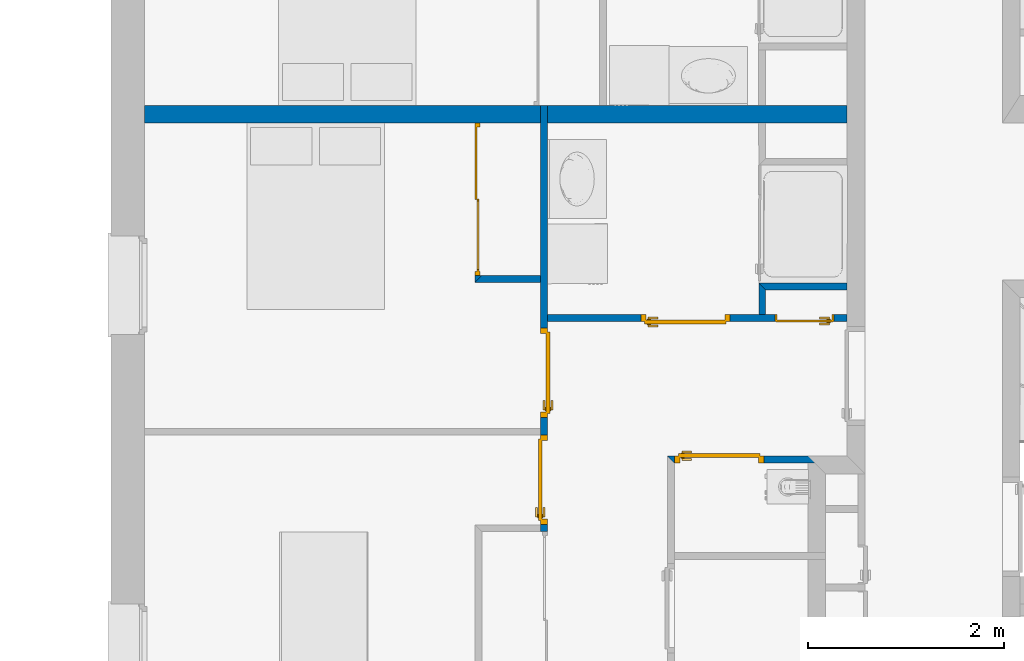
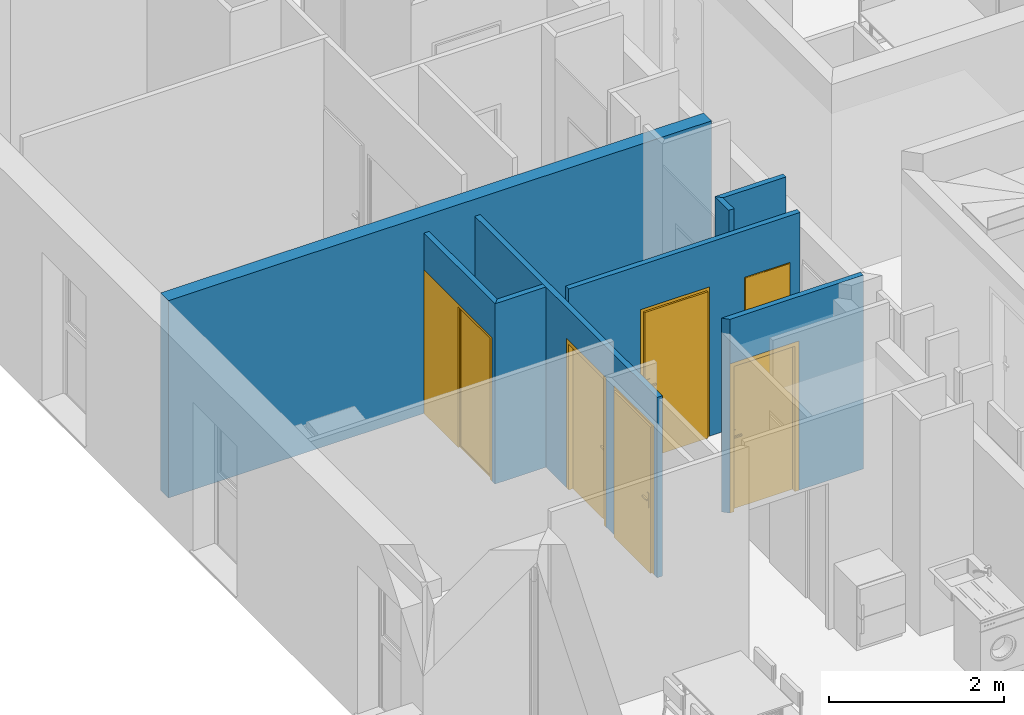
# One storey, part 28 of 164: 8 walls, 6 doors, 6 openings.
"""IFC2X3 building model written with IfcOpenShell, lengths in millimetres."""

from ifc_helpers import new_model, entity, si_unit, converted_unit, derived_unit, money_unit, direction, frame, origin_with_axes, origin_2d_with_axis, place, context, subcontext, project, spatial, polyline, rectangle, outline, extrude, open_shell, faceted_brep, surface_model, source, transform, mapped, material, layer, layer_set, layer_usage, type_object, element, fill, save


model = new_model("IFC2X3")

# Units and contexts
model_context = context("Model", 3, precision=0.01, world=origin_with_axes(), true_north=direction((0.0, 1.0)))
body_context = subcontext(model_context, "Body", "Model", "MODEL_VIEW")
ifc_project = project(units=[si_unit("LENGTHUNIT", "METRE", prefix="MILLI"), si_unit("AREAUNIT", "SQUARE_METRE"), si_unit("VOLUMEUNIT", "CUBIC_METRE"), converted_unit("PLANEANGLEUNIT", "DEGREE", entity("IfcPlaneAngleMeasure", 0.0174532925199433), si_unit("PLANEANGLEUNIT", "RADIAN"), dimensions=[0, 0, 0, 0, 0, 0, 0]), money_unit("USD"), converted_unit("TIMEUNIT", "Year", entity("IfcTimeMeasure", 31557600.0), si_unit("TIMEUNIT", "SECOND"), dimensions=[0, 0, 1, 0, 0, 0, 0]), si_unit("MASSUNIT", "GRAM", prefix="KILO"), si_unit("THERMODYNAMICTEMPERATUREUNIT", "DEGREE_CELSIUS"), si_unit("LUMINOUSINTENSITYUNIT", "LUMEN"), si_unit("ENERGYUNIT", "JOULE", prefix="MEGA"), derived_unit("THERMALCONDUCTANCEUNIT", [(si_unit("POWERUNIT", "WATT"), 1), (si_unit("LENGTHUNIT", "METRE"), -1), (si_unit("THERMODYNAMICTEMPERATUREUNIT", "KELVIN"), -1)]), derived_unit("SPECIFICHEATCAPACITYUNIT", [(si_unit("ENERGYUNIT", "JOULE"), 1), (si_unit("MASSUNIT", "GRAM", prefix="KILO"), -1), (si_unit("THERMODYNAMICTEMPERATUREUNIT", "KELVIN"), -1)]), derived_unit("MASSDENSITYUNIT", [(si_unit("MASSUNIT", "GRAM", prefix="KILO"), 1), (si_unit("VOLUMEUNIT", "CUBIC_METRE"), -1)])], contexts=[model_context])

# Site, building, storey
site_placement = place(None, origin_with_axes())
site = spatial("IfcSite", under=ifc_project, at=site_placement, Name="Site", CompositionType="ELEMENT")
building_placement = place(site_placement, origin_with_axes())
building = spatial("IfcBuilding", under=site, at=building_placement, Name="Bâtiment", CompositionType="ELEMENT")
storey_placement = place(building_placement, frame((0.0, 0.0, 5750.0), z_axis=(0.0, 0.0, 1.0), x_axis=(1.0, 0.0, 0.0)))
storey = spatial("IfcBuildingStorey", under=building, at=storey_placement, Name="Etage1", CompositionType="ELEMENT", Elevation=5750.0)

# Walls
ifc_material_1 = material(Name="Parpaing 314940890")
ifc_layer_1 = layer(ifc_material_1, 180.0, ventilated="UNKNOWN")
ifc_layer_set_1 = layer_set([ifc_layer_1], Name="Beton  18 0018356637")
ifc_layer_usage_1 = layer_usage(ifc_layer_set_1, "AXIS2", "POSITIVE", 0.0)
wall_type_1 = type_object("IfcWallType", Name="Beton  18 0018356637 180", PredefinedType="NOTDEFINED")
wall_1_placement = place(storey_placement, frame((2216634.274373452, -632613.5146792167, 0.0), z_axis=(0.0, 0.0, 1.0), x_axis=(1.0, 0.0, 0.0)))
element("IfcWallStandardCase", 1, at=wall_1_placement, inside=storey, type_object=wall_type_1, material=ifc_layer_usage_1, Name="Mur-142", context=body_context, shape_type="SweptSolid", body=[
    extrude(outline(polyline([(340.0001778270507, 0.0), (7498.105825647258, 0.0), (7498.104824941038, 180.0000000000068), (339.9991173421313, 180.0000000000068), (340.0001778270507, 0.0)])), origin_with_axes(), (0.0, 0.0, 1.0), 2750.0),
])
ifc_material_2 = material(Name="Hachure solide 268963992")
ifc_layer_2 = layer(ifc_material_2, 70.0, ventilated="UNKNOWN")
ifc_layer_set_2 = layer_set([ifc_layer_2], Name="Cloison 70 0826278243")
ifc_layer_usage_2 = layer_usage(ifc_layer_set_2, "AXIS2", "NEGATIVE", 70.0)
wall_type_2 = type_object("IfcWallType", Name="Cloison 70 0826278243 70", PredefinedType="NOTDEFINED")
wall_2_placement = place(storey_placement, frame((2224312.389264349, -634244.107517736, 0.0), z_axis=(0.0, 0.0, 1.0), x_axis=(-0.9999998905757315, 0.0004678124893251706, 0.0)))
element("IfcWallStandardCase", 2, at=wall_2_placement, inside=storey, type_object=wall_type_2, material=ifc_layer_usage_2, Name="Mur-149", context=body_context, shape_type="SweptSolid", body=[
    extrude(outline(polyline([(180.0000201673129, 0.0), (1079.999976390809, 0.0), (1009.967238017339, 69.99999999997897), (179.9668841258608, 69.99999999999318), (180.0000201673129, 0.0)])), origin_with_axes(), (0.0, 0.0, 1.0), 3000.0),
])

# Wall, openings, doors
ifc_layer_usage_3 = layer_usage(ifc_layer_set_2, "AXIS2", "NEGATIVE", 70.0)
wall_3_placement = place(storey_placement, frame((2221010.881430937, -634634.1074761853, 0.0), z_axis=(0.0, 0.0, 1.0), x_axis=(1.0, 0.0, 0.0)))
wall_3 = element("IfcWallStandardCase", 3, at=wall_3_placement, inside=storey, type_object=wall_type_2, material=ifc_layer_usage_3, Name="Mur-150", context=body_context, shape_type="SweptSolid", body=[
    extrude(outline(polyline([(69.99988568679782, 0.0), (3121.510001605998, 0.0), (3121.509612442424, 69.99999999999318), (69.99990367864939, 69.99999999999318), (69.99988568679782, 0.0)])), origin_with_axes(), (0.0, 0.0, 1.0), 2700.0),
])
opening_1_placement = place(wall_3_placement, frame((1474.347700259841, 0.0, 0.0), z_axis=(0.0, 0.0, 1.0), x_axis=(1.0, 0.0, 0.0)))
opening_1 = element("IfcOpeningElement", 4, at=opening_1_placement, cuts=wall_3, Name="Por-277", context=body_context, shape_type="SweptSolid", body=[
    extrude(rectangle(XDim=910.0, YDim=2080.0, at=origin_2d_with_axis()), frame((0.0, 69.99999999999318, 1040.0), z_axis=(0.0, 1.0, 0.0), x_axis=(1.0, 0.0, 0.0)), (0.0, 0.0, -1.0), 140.0),
])
opening_2_placement = place(wall_3_placement, frame((2686.279846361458, 0.0, 0.0), z_axis=(0.0, 0.0, 1.0), x_axis=(1.0, 0.0, 0.0)))
opening_2 = element("IfcOpeningElement", 5, at=opening_2_placement, cuts=wall_3, Name="Por-275", context=body_context, shape_type="SweptSolid", body=[
    extrude(rectangle(XDim=599.9999999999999, YDim=2050.0, at=origin_2d_with_axis()), frame((0.0, 69.99999999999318, 1025.0), z_axis=(0.0, -1.0, 0.0), x_axis=(-1.0, 0.0, 0.0)), (0.0, 0.0, 1.0), 140.0),
])
door_style_1 = type_object("IfcDoorStyle", Name="Porte_1v", ConstructionType="NOTDEFINED", OperationType="NOTDEFINED", ParameterTakesPrecedence=False, Sizeable=False)
shared_shape_1 = source(origin_with_axes(), body_context, "Body", "Brep", [
    faceted_brep([(300.0, 0.0, 0.0), (290.0, 0.0, 0.0), (290.0, 0.0, 2040.0), (-290.0, 0.0, 2040.0), (-290.0, 0.0, 0.0), (-300.0, 0.0, 0.0), (-300.0, 0.0, 2050.0), (300.0, 0.0, 2050.0), (300.0, -70.0, 0.0), (279.9999999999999, -70.0, 0.0), (279.9999999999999, -15.0, 0.0), (290.0, -15.0, 0.0), (290.0, -15.0, 2040.0), (-290.0, -15.0, 2040.0), (-290.0, -15.0, 0.0), (-279.9999999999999, -15.0, 0.0), (-279.9999999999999, -70.0, 0.0), (-300.0, -70.0, 0.0), (-300.0, -70.0, 2050.0), (300.0, -70.0, 2050.0), (-279.9999999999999, -70.0, 2030.0), (279.9999999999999, -70.0, 2030.0), (279.9999999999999, -15.0, 2030.0), (-279.9999999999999, -15.0, 2030.0)], [[[0, 1, 2, 3, 4, 5, 6, 7]], [[0, 8, 9, 10, 11, 1]], [[1, 11, 12, 2]], [[2, 12, 13, 3]], [[3, 13, 14, 4]], [[5, 4, 14, 15, 16, 17]], [[18, 6, 5, 17]], [[19, 7, 6, 18]], [[8, 0, 7, 19]], [[9, 8, 19, 18, 17, 16, 20, 21]], [[10, 9, 21, 22]], [[11, 10, 22, 23, 15, 14, 13, 12]], [[23, 20, 16, 15]], [[22, 21, 20, 23]]]),
    faceted_brep([(-224.9999999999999, -15.0, 900.0), (-264.9999999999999, -15.0, 900.0), (-264.9999999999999, -15.0, 1100.0), (-224.9999999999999, -15.0, 1100.0), (-224.9999999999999, -25.0, 900.0), (-264.9999999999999, -25.0, 900.0), (-264.9999999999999, -25.0, 1100.0), (-224.9999999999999, -25.0, 1100.0)], [[[0, 1, 2, 3]], [[1, 0, 4, 5]], [[2, 1, 5, 6]], [[3, 2, 6, 7]], [[0, 3, 7, 4]], [[5, 4, 7, 6]]]),
    faceted_brep([(-154.9999999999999, -25.0, 1000.0), (-254.9999999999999, -25.0, 1000.0), (-254.9999999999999, -25.0, 1020.0), (-154.9999999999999, -25.0, 1020.0), (-154.9999999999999, -45.0, 1000.0), (-254.9999999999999, -45.0, 1000.0), (-254.9999999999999, -45.0, 1020.0), (-154.9999999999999, -45.0, 1020.0)], [[[0, 1, 2, 3]], [[1, 0, 4, 5]], [[2, 1, 5, 6]], [[3, 2, 6, 7]], [[0, 3, 7, 4]], [[5, 4, 7, 6]]]),
    faceted_brep([(-224.9999999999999, 15.0, 900.0), (-264.9999999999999, 15.0, 900.0), (-264.9999999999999, 15.0, 1100.0), (-224.9999999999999, 15.0, 1100.0), (-224.9999999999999, 5.000000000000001, 900.0), (-264.9999999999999, 5.000000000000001, 900.0), (-264.9999999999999, 5.000000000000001, 1100.0), (-224.9999999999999, 5.000000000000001, 1100.0)], [[[0, 1, 2, 3]], [[1, 0, 4, 5]], [[2, 1, 5, 6]], [[3, 2, 6, 7]], [[0, 3, 7, 4]], [[5, 4, 7, 6]]]),
    faceted_brep([(-154.9999999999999, 35.0, 1000.0), (-254.9999999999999, 35.0, 1000.0), (-254.9999999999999, 35.0, 1020.0), (-154.9999999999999, 35.0, 1020.0), (-154.9999999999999, 15.0, 1000.0), (-254.9999999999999, 15.0, 1000.0), (-254.9999999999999, 15.0, 1020.0), (-154.9999999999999, 15.0, 1020.0)], [[[0, 1, 2, 3]], [[1, 0, 4, 5]], [[2, 1, 5, 6]], [[3, 2, 6, 7]], [[0, 3, 7, 4]], [[5, 4, 7, 6]]]),
    faceted_brep([(-290.0, 5.000000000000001, 0.0), (290.0, 5.000000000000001, 0.0), (290.0, -15.0, 0.0), (-290.0, -15.0, 0.0), (-290.0, 5.000000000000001, 2040.0), (290.0, 5.000000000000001, 2040.0), (290.0, -15.0, 2040.0), (-290.0, -15.0, 2040.0)], [[[0, 1, 2, 3]], [[0, 4, 5, 1]], [[1, 5, 6, 2]], [[3, 2, 6, 7]], [[4, 0, 3, 7]], [[5, 4, 7, 6]]]),
])
door_1_placement = place(opening_2_placement, frame((289.9999999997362, 0.0, 0.0), z_axis=(0.0, 0.0, 1.0), x_axis=(-1.0, 0.0, 0.0)))
door_1 = element("IfcDoor", 6, at=door_1_placement, inside=storey, type_object=door_style_1, Name="Por-275", OverallHeight=2040.0, OverallWidth=580.0, context=body_context, shape_type="MappedRepresentation", body=[
    mapped(shared_shape_1, transform((289.9999999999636, 0.0, 0.0))),
])
fill(opening_2, door_1)
shared_shape_2 = source(origin_with_axes(), body_context, "Body", "Brep", [
    faceted_brep([(-454.9999999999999, 0.0, 0.0), (-454.9999999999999, 0.0, 2080.0), (454.9999999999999, 0.0, 2080.0), (454.9999999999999, 0.0, 0.0), (414.9999999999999, 0.0, 0.0), (414.9999999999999, 0.0, 2040.0), (-414.9999999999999, 0.0, 2040.0), (-414.9999999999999, 0.0, 0.0), (-454.9999999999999, -69.99999999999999, 0.0), (-454.9999999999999, -69.99999999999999, 2080.0), (454.9999999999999, -69.99999999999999, 2080.0), (454.9999999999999, -69.99999999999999, 0.0), (399.9999999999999, -69.99999999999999, 0.0), (399.9999999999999, -15.0, 0.0), (414.9999999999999, -15.0, 0.0), (414.9999999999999, -15.0, 2040.0), (-414.9999999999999, -14.99999999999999, 2040.0), (-414.9999999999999, -14.99999999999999, 0.0), (-399.9999999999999, -14.99999999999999, 0.0), (-399.9999999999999, -69.99999999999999, 0.0), (-399.9999999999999, -69.99999999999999, 2025.0), (399.9999999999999, -69.99999999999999, 2025.0), (399.9999999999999, -15.0, 2025.0), (-399.9999999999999, -14.99999999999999, 2025.0)], [[[0, 1, 2, 3, 4, 5, 6, 7]], [[8, 9, 1, 0]], [[9, 10, 2, 1]], [[10, 11, 3, 2]], [[3, 11, 12, 13, 14, 4]], [[5, 4, 14, 15]], [[6, 5, 15, 16]], [[7, 6, 16, 17]], [[0, 7, 17, 18, 19, 8]], [[19, 20, 21, 12, 11, 10, 9, 8]], [[22, 13, 12, 21]], [[17, 16, 15, 14, 13, 22, 23, 18]], [[18, 23, 20, 19]], [[23, 22, 21, 20]]]),
    faceted_brep([(350.0, -15.0, 900.0), (350.0, -15.0, 1100.0), (389.9999999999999, -15.0, 1100.0), (389.9999999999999, -15.0, 900.0), (350.0, -25.0, 900.0), (350.0, -25.0, 1100.0), (389.9999999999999, -25.0, 1100.0), (389.9999999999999, -25.0, 900.0)], [[[0, 1, 2, 3]], [[0, 4, 5, 1]], [[1, 5, 6, 2]], [[2, 6, 7, 3]], [[3, 7, 4, 0]], [[7, 6, 5, 4]]]),
    faceted_brep([(279.9999999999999, -25.0, 1000.0), (279.9999999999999, -25.0, 1020.0), (379.9999999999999, -25.0, 1020.0), (379.9999999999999, -25.0, 1000.0), (279.9999999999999, -45.0, 1000.0), (279.9999999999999, -45.0, 1020.0), (379.9999999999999, -45.0, 1020.0), (379.9999999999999, -45.0, 1000.0)], [[[0, 1, 2, 3]], [[0, 4, 5, 1]], [[1, 5, 6, 2]], [[2, 6, 7, 3]], [[3, 7, 4, 0]], [[7, 6, 5, 4]]]),
    faceted_brep([(350.0, 34.99999999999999, 900.0), (350.0, 34.99999999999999, 1100.0), (389.9999999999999, 34.99999999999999, 1100.0), (389.9999999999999, 34.99999999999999, 900.0), (350.0, 24.99999999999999, 900.0), (350.0, 24.99999999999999, 1100.0), (389.9999999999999, 24.99999999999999, 1100.0), (389.9999999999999, 24.99999999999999, 900.0)], [[[0, 1, 2, 3]], [[0, 4, 5, 1]], [[1, 5, 6, 2]], [[2, 6, 7, 3]], [[3, 7, 4, 0]], [[7, 6, 5, 4]]]),
    faceted_brep([(279.9999999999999, 54.99999999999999, 1000.0), (279.9999999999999, 54.99999999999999, 1020.0), (379.9999999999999, 54.99999999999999, 1020.0), (379.9999999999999, 54.99999999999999, 1000.0), (279.9999999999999, 34.99999999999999, 1000.0), (279.9999999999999, 34.99999999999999, 1020.0), (379.9999999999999, 34.99999999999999, 1020.0), (379.9999999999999, 34.99999999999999, 1000.0)], [[[0, 1, 2, 3]], [[0, 4, 5, 1]], [[1, 5, 6, 2]], [[2, 6, 7, 3]], [[3, 7, 4, 0]], [[7, 6, 5, 4]]]),
    faceted_brep([(414.9999999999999, 24.99999999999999, 0.0), (414.9999999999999, -15.0, 0.0), (-414.9999999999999, -14.99999999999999, 0.0), (-414.9999999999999, 25.0, 0.0), (414.9999999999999, 24.99999999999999, 2040.0), (414.9999999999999, -15.0, 2040.0), (-414.9999999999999, -14.99999999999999, 2040.0), (-414.9999999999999, 25.0, 2040.0)], [[[0, 1, 2, 3]], [[4, 5, 1, 0]], [[1, 5, 6, 2]], [[3, 2, 6, 7]], [[0, 3, 7, 4]], [[7, 6, 5, 4]]]),
])
door_2_placement = place(opening_1_placement, frame((414.9999999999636, 0.0, 0.0), z_axis=(0.0, 0.0, 1.0), x_axis=(-1.0, 0.0, 0.0)))
door_2 = element("IfcDoor", 7, at=door_2_placement, inside=storey, type_object=door_style_1, Name="Por-277", OverallHeight=2040.0, OverallWidth=830.0, context=body_context, shape_type="MappedRepresentation", body=[
    mapped(shared_shape_2, transform((414.9999999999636, 0.0, 0.0))),
])
fill(opening_1, door_2)

# Wall, opening, door
ifc_layer_usage_4 = layer_usage(ifc_layer_set_2, "AXIS2", "NEGATIVE", 70.0)
wall_4_placement = place(storey_placement, frame((2224312.39906677, -636007.2981221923, 0.0), z_axis=(0.0, 0.0, 1.0), x_axis=(-0.9999999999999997, 2.755947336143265e-08, 0.0)))
wall_4 = element("IfcWallStandardCase", 8, at=wall_4_placement, inside=storey, type_object=wall_type_2, material=ifc_layer_usage_4, Name="Mur-149", context=body_context, shape_type="SweptSolid", body=[
    extrude(outline(polyline([(180.0000000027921, 0.0), (2009.999836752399, 0.0), (1939.999851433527, 69.99999999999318), (179.9996089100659, 69.99999999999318), (180.0000000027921, 0.0)])), origin_with_axes(), (0.0, 0.0, 1.0), 2700.0),
])
opening_3_placement = place(wall_4_placement, frame((1484.999851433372, 0.0, 0.0), z_axis=(0.0, 0.0, 1.0), x_axis=(1.0, 0.0, 0.0)))
opening_3 = element("IfcOpeningElement", 9, at=opening_3_placement, cuts=wall_4, Name="Por-297", context=body_context, shape_type="SweptSolid", body=[
    extrude(rectangle(XDim=910.0, YDim=2080.0, at=origin_2d_with_axis()), frame((-1.929151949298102e-06, 69.99999999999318, 1040.0), z_axis=(2.755947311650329e-08, -0.9999999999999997, 0.0), x_axis=(-0.9999999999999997, -2.755947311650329e-08, 0.0)), (0.0, 0.0, 1.0), 140.0),
])
shared_shape_3 = source(origin_with_axes(), body_context, "Body", "Brep", [
    faceted_brep([(455.0, 0.0, 0.0), (415.0000000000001, 0.0, 0.0), (415.0000000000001, 0.0, 2040.0), (-415.0000000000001, 0.0, 2040.0), (-415.0000000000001, 0.0, 0.0), (-455.0, 0.0, 0.0), (-455.0, 0.0, 2080.0), (455.0, 0.0, 2080.0), (455.0, -70.0, 0.0), (400.0, -70.0, 0.0), (400.0, -15.0, 0.0), (415.0000000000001, -15.0, 0.0), (415.0000000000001, -15.0, 2040.0), (-415.0000000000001, -15.0, 2040.0), (-415.0000000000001, -15.0, 0.0), (-400.0, -15.0, 0.0), (-400.0, -70.0, 0.0), (-455.0, -70.0, 0.0), (-455.0, -70.0, 2080.0), (455.0, -70.0, 2080.0), (-400.0, -70.0, 2025.0), (400.0, -70.0, 2025.0), (400.0, -15.0, 2025.0), (-400.0, -15.0, 2025.0)], [[[0, 1, 2, 3, 4, 5, 6, 7]], [[0, 8, 9, 10, 11, 1]], [[1, 11, 12, 2]], [[2, 12, 13, 3]], [[3, 13, 14, 4]], [[5, 4, 14, 15, 16, 17]], [[18, 6, 5, 17]], [[19, 7, 6, 18]], [[8, 0, 7, 19]], [[9, 8, 19, 18, 17, 16, 20, 21]], [[10, 9, 21, 22]], [[11, 10, 22, 23, 15, 14, 13, 12]], [[23, 20, 16, 15]], [[22, 21, 20, 23]]]),
    faceted_brep([(-350.0000000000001, -15.0, 900.0), (-390.0, -15.0, 900.0), (-390.0, -15.0, 1100.0), (-350.0000000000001, -15.0, 1100.0), (-350.0000000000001, -25.0, 900.0), (-390.0, -25.0, 900.0), (-390.0, -25.0, 1100.0), (-350.0000000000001, -25.0, 1100.0)], [[[0, 1, 2, 3]], [[1, 0, 4, 5]], [[2, 1, 5, 6]], [[3, 2, 6, 7]], [[0, 3, 7, 4]], [[5, 4, 7, 6]]]),
    faceted_brep([(-280.0, -25.0, 1000.0), (-380.0, -25.0, 1000.0), (-380.0, -25.0, 1020.0), (-280.0, -25.0, 1020.0), (-280.0, -45.0, 1000.0), (-380.0, -45.0, 1000.0), (-380.0, -45.0, 1020.0), (-280.0, -45.0, 1020.0)], [[[0, 1, 2, 3]], [[1, 0, 4, 5]], [[2, 1, 5, 6]], [[3, 2, 6, 7]], [[0, 3, 7, 4]], [[5, 4, 7, 6]]]),
    faceted_brep([(-350.0000000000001, 35.0, 900.0), (-390.0, 35.0, 900.0), (-390.0, 35.0, 1100.0), (-350.0000000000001, 35.0, 1100.0), (-350.0000000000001, 25.0, 900.0), (-390.0, 25.0, 900.0), (-390.0, 25.0, 1100.0), (-350.0000000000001, 25.0, 1100.0)], [[[0, 1, 2, 3]], [[1, 0, 4, 5]], [[2, 1, 5, 6]], [[3, 2, 6, 7]], [[0, 3, 7, 4]], [[5, 4, 7, 6]]]),
    faceted_brep([(-280.0, 55.00000000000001, 1000.0), (-380.0, 55.00000000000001, 1000.0), (-380.0, 55.00000000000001, 1020.0), (-280.0, 55.00000000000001, 1020.0), (-280.0, 35.0, 1000.0), (-380.0, 35.0, 1000.0), (-380.0, 35.0, 1020.0), (-280.0, 35.0, 1020.0)], [[[0, 1, 2, 3]], [[1, 0, 4, 5]], [[2, 1, 5, 6]], [[3, 2, 6, 7]], [[0, 3, 7, 4]], [[5, 4, 7, 6]]]),
    faceted_brep([(-415.0000000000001, 25.0, 0.0), (415.0000000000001, 25.0, 0.0), (415.0000000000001, -15.0, 0.0), (-415.0000000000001, -15.0, 0.0), (-415.0000000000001, 25.0, 2040.0), (415.0000000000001, 25.0, 2040.0), (415.0000000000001, -15.0, 2040.0), (-415.0000000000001, -15.0, 2040.0)], [[[0, 1, 2, 3]], [[0, 4, 5, 1]], [[1, 5, 6, 2]], [[3, 2, 6, 7]], [[4, 0, 3, 7]], [[5, 4, 7, 6]]]),
])
door_3_placement = place(opening_3_placement, frame((415.0000000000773, 0.0, 0.0), z_axis=(0.0, 0.0, 1.0), x_axis=(-1.0, 0.0, 0.0)))
door_3 = element("IfcDoor", 10, at=door_3_placement, inside=storey, type_object=door_style_1, Name="Por-297", OverallHeight=2040.0, OverallWidth=830.0, context=body_context, shape_type="MappedRepresentation", body=[
    mapped(shared_shape_3, transform((414.9999999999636, -4.092581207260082e-05, 0.0))),
])
fill(opening_3, door_3)

# Wall
ifc_layer_usage_5 = layer_usage(ifc_layer_set_2, "AXIS2", "POSITIVE", -70.0)
wall_5_placement = place(storey_placement, frame((2223232.389316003, -634634.1134804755, 0.0), z_axis=(0.0, 0.0, 1.0), x_axis=(2.308085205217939e-07, 0.9999999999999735, 0.0)))
element("IfcWallStandardCase", 11, at=wall_5_placement, inside=storey, type_object=wall_type_2, material=ifc_layer_usage_5, Name="Mur-149", context=body_context, shape_type="SweptSolid", body=[
    extrude(outline(polyline([(70.00602044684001, -70.00000000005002), (320.4784618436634, -70.00000000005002), (390.5112002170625, 0.0), (70.00600429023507, 0.0), (70.00602044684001, -70.00000000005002)])), origin_with_axes(), (0.0, 0.0, 1.0), 3000.0),
])

# Wall, opening, door
ifc_layer_usage_6 = layer_usage(ifc_layer_set_2, "AXIS2", "NEGATIVE", 70.0)
wall_6_placement = place(storey_placement, frame((2220340.881835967, -632613.5344579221, 0.0), z_axis=(0.0, 0.0, 1.0), x_axis=(-2.570276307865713e-07, -0.999999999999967, 0.0)))
wall_6 = element("IfcWallStandardCase", 12, at=wall_6_placement, inside=storey, type_object=wall_type_2, material=ifc_layer_usage_6, Name="Mur-149", context=body_context, shape_type="SweptSolid", body=[
    extrude(outline(polyline([(0.0, 0.0), (1623.124017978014, 0.0), (1553.124017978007, 70.00000000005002), (0.0, 70.00000000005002), (0.0, 0.0)])), origin_with_axes(), (0.0, 0.0, 1.0), 2512.25122490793),
])
opening_4_placement = place(wall_6_placement, frame((776.5638989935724, 0.0, 0.0), z_axis=(0.0, 0.0, 1.0), x_axis=(1.0, 0.0, 0.0)))
opening_4 = element("IfcOpeningElement", 13, at=opening_4_placement, cuts=wall_6, Name="Por-329", context=body_context, shape_type="SweptSolid", body=[
    extrude(rectangle(XDim=1553.120237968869, YDim=2000.0, at=origin_2d_with_axis()), frame((0.0, 0.0, 1000.0), z_axis=(0.0, 1.0, 0.0), x_axis=(1.0, 0.0, 0.0)), (0.0, 0.0, -1.0), 70.0),
    extrude(rectangle(XDim=1553.120237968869, YDim=2000.0, at=origin_2d_with_axis()), frame((0.0, 0.0, 1000.0), z_axis=(0.0, -1.0, 0.0), x_axis=(1.0, 0.0, 0.0)), (0.0, 0.0, -1.0), 70.0),
])
door_style_2 = type_object("IfcDoorStyle", ConstructionType="NOTDEFINED", OperationType="NOTDEFINED", ParameterTakesPrecedence=False, Sizeable=False)
shared_shape_4 = source(origin_with_axes(), body_context, "Body", "SurfaceModel", [
    faceted_brep([(776.5601189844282, 0.0, 0.0), (736.5601189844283, 0.0, 0.0), (736.5601189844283, 0.0, 1960.0), (-736.5601189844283, 0.0, 1960.0), (-736.5601189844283, 0.0, 0.0), (-776.5601189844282, 0.0, 0.0), (-776.5601189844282, 0.0, 2000.0), (776.5601189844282, 0.0, 2000.0), (776.5601189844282, -49.99999999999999, 0.0), (736.5601189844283, -49.99999999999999, 0.0), (736.5601189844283, -9.999999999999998, 0.0), (736.5601189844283, -9.999999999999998, 1960.0), (-736.5601189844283, -9.999999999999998, 1960.0), (-736.5601189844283, -9.999999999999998, 0.0), (-736.5601189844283, -49.99999999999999, 0.0), (-776.5601189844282, -49.99999999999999, 0.0), (-776.5601189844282, -49.99999999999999, 2000.0), (776.5601189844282, -49.99999999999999, 2000.0), (-736.5601189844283, -49.99999999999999, 1960.0), (736.5601189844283, -49.99999999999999, 1960.0)], [[[0, 1, 2, 3, 4, 5, 6, 7]], [[0, 8, 9, 10, 1]], [[1, 10, 11, 2]], [[2, 11, 12, 3]], [[3, 12, 13, 4]], [[5, 4, 13, 14, 15]], [[16, 6, 5, 15]], [[17, 7, 6, 16]], [[8, 0, 7, 17]], [[9, 8, 17, 16, 15, 14, 18, 19]], [[10, 9, 19, 11]], [[11, 19, 18, 12]], [[12, 18, 14, 13]]]),
    faceted_brep([(-736.5601189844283, -20.0, 0.0), (0.0, -20.0, 0.0), (0.0, -39.99999999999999, 0.0), (-736.5601189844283, -39.99999999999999, 0.0), (-736.5601189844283, -20.0, 1960.0), (0.0, -20.0, 1960.0), (-716.5601189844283, -20.0, 20.0), (-20.00000000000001, -20.0, 20.0), (-20.00000000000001, -20.0, 1940.0), (-716.5601189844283, -20.0, 1940.0), (0.0, -39.99999999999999, 1960.0), (-736.5601189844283, -39.99999999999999, 1960.0), (-716.5601189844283, -39.99999999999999, 20.0), (-716.5601189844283, -39.99999999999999, 1940.0), (-20.00000000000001, -39.99999999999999, 1940.0), (-20.00000000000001, -39.99999999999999, 20.0)], [[[0, 1, 2, 3]], [[0, 4, 5, 1], [6, 7, 8, 9]], [[1, 5, 10, 2]], [[3, 2, 10, 11], [12, 13, 14, 15]], [[4, 0, 3, 11]], [[5, 4, 11, 10]], [[7, 6, 12, 15]], [[8, 7, 15, 14]], [[9, 8, 14, 13]], [[6, 9, 13, 12]]]),
    surface_model("IfcShellBasedSurfaceModel", [(-716.5601189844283, -29.99999999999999, 20.0), (-20.00000000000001, -29.99999999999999, 20.0), (-20.00000000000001, -29.99999999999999, 1940.0), (-716.5601189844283, -29.99999999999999, 1940.0)], [open_shell([[[0, 1, 2, 3]]])]),
    faceted_brep([(-5.000000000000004, 0.0, 0.0), (736.5601189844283, 0.0, 0.0), (736.5601189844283, -20.0, 0.0), (-5.000000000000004, -20.0, 0.0), (-5.000000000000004, 0.0, 1960.0), (736.5601189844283, 0.0, 1960.0), (736.5601189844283, -20.0, 1960.0), (-5.000000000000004, -20.0, 1960.0)], [[[0, 1, 2, 3]], [[0, 4, 5, 1]], [[1, 5, 6, 2]], [[3, 2, 6, 7]], [[4, 0, 3, 7]], [[5, 4, 7, 6]]]),
])
door_4_placement = place(opening_4_placement, frame((776.5601189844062, -2.273736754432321e-10, 0.0), z_axis=(0.0, 0.0, 1.0), x_axis=(-1.0, 0.0, 0.0)))
door_4 = element("IfcDoor", 14, at=door_4_placement, inside=storey, type_object=door_style_2, Name="Por-329", OverallHeight=2000.0, OverallWidth=1553.12, context=body_context, shape_type="MappedRepresentation", body=[
    mapped(shared_shape_4, transform((776.5601189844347, 0.0, 0.0))),
])
fill(opening_4, door_4)

# Wall, openings, doors
ifc_layer_usage_7 = layer_usage(ifc_layer_set_2, "AXIS2", "NEGATIVE", 70.0)
wall_7_placement = place(storey_placement, frame((2221010.881882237, -632433.5146931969, 0.0), z_axis=(0.0, 0.0, 1.0), x_axis=(-2.570276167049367e-07, -0.999999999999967, 0.0)))
wall_7 = element("IfcWallStandardCase", 15, at=wall_7_placement, inside=storey, type_object=wall_type_2, material=ifc_layer_usage_7, Name="Mur-149", context=body_context, shape_type="SweptSolid", body=[
    extrude(outline(polyline([(0.0, 0.0), (4342.778834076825, 0.0), (4342.778834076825, 70.00000000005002), (0.0, 70.00000000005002), (0.0, 0.0)])), origin_with_axes(), (0.0, 0.0, 1.0), 2512.25122490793),
])
opening_5_placement = place(wall_7_placement, frame((3814.4350000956, -1.13686837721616e-10, 0.0), z_axis=(0.0, 0.0, 1.0), x_axis=(1.0, 0.0, 0.0)))
opening_5 = element("IfcOpeningElement", 16, at=opening_5_placement, cuts=wall_7, Name="Por-276", context=body_context, shape_type="SweptSolid", body=[
    extrude(rectangle(XDim=910.0, YDim=2080.0, at=origin_2d_with_axis()), frame((0.0, 70.00000000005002, 1040.0), z_axis=(0.0, -1.0, 0.0), x_axis=(-1.0, 0.0, 0.0)), (0.0, 0.0, 1.0), 140.0),
])
opening_6_placement = place(wall_7_placement, frame((2724.435000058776, 0.0, 0.0), z_axis=(0.0, 0.0, 1.0), x_axis=(1.0, 0.0, 0.0)))
opening_6 = element("IfcOpeningElement", 17, at=opening_6_placement, cuts=wall_7, Name="Por-275", context=body_context, shape_type="SweptSolid", body=[
    extrude(rectangle(XDim=910.0, YDim=2080.0, at=origin_2d_with_axis()), frame((0.0, -70.00000000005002, 1040.0), z_axis=(0.0, -1.0, 0.0), x_axis=(-1.0, 0.0, 0.0)), (0.0, 0.0, -1.0), 140.0),
])
door_5_placement = place(opening_5_placement, frame((414.999999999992, 0.0, 0.0), z_axis=(0.0, 0.0, 1.0), x_axis=(-1.0, 0.0, 0.0)))
door_5 = element("IfcDoor", 18, at=door_5_placement, inside=storey, type_object=door_style_1, Name="Por-276", OverallHeight=2040.0, OverallWidth=830.0, context=body_context, shape_type="MappedRepresentation", body=[
    mapped(shared_shape_3, transform((415.0000000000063, 0.0, 0.0))),
])
fill(opening_5, door_5)
door_6_placement = place(opening_6_placement, frame((-414.9999999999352, -1.13686837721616e-10, 0.0), z_axis=(0.0, 0.0, 1.0), x_axis=(1.0, 0.0, 0.0)))
door_6 = element("IfcDoor", 19, at=door_6_placement, inside=storey, type_object=door_style_1, Name="Por-275", OverallHeight=2040.0, OverallWidth=830.0, context=body_context, shape_type="MappedRepresentation", body=[
    mapped(shared_shape_2, transform((415.0000000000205, 70.00000000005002, 0.0))),
])
fill(opening_6, door_6)

# Wall
ifc_layer_usage_8 = layer_usage(ifc_layer_set_2, "AXIS2", "NEGATIVE", 70.0)
wall_8_placement = place(storey_placement, frame((2220340.881418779, -634236.6584759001, 0.0), z_axis=(0.0, 0.0, 1.0), x_axis=(0.999999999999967, -2.570276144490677e-07, 0.0)))
element("IfcWallStandardCase", 20, at=wall_8_placement, inside=storey, type_object=wall_type_2, material=ifc_layer_usage_8, Name="Mur-149", context=body_context, shape_type="SweptSolid", body=[
    extrude(outline(polyline([(0.0, 0.0), (670.0000000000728, 0.0), (670.0000000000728, 70.00000000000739), (70.00000000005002, 69.99999999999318), (0.0, 0.0)])), origin_with_axes(), (0.0, 0.0, 1.0), 2512.25122490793),
])

save(model, "model.ifc")
